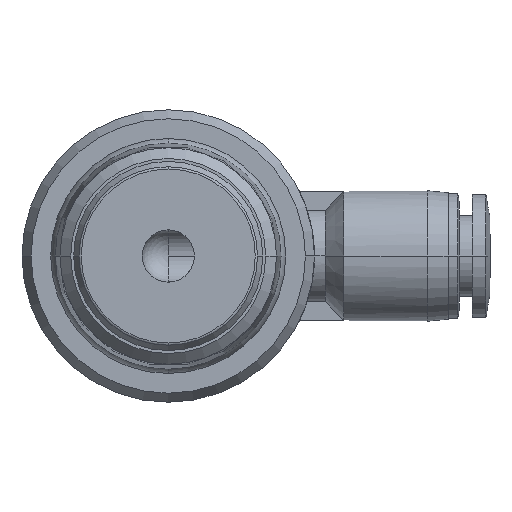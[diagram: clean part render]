
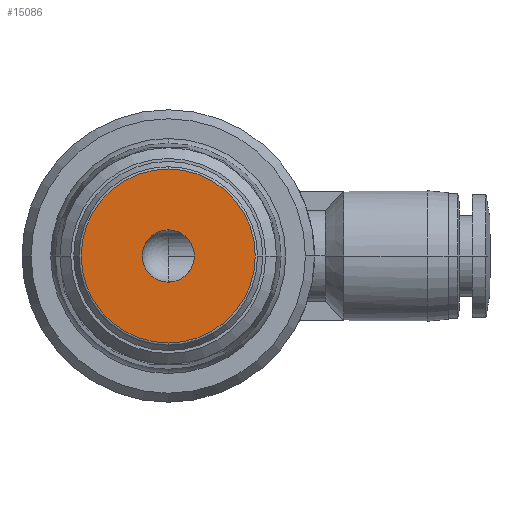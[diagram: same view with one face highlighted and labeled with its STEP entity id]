
A CAD part, front view. The second image highlights one B-rep face of the part: STEP entity #15086.
In plain terms, the highlighted planar face has unit normal (0, -1, 0).
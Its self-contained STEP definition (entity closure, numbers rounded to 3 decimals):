
#187 = CIRCLE ( 'NONE', #1242, 2.5 ) ;
#653 = CARTESIAN_POINT ( 'NONE',  ( -2.5, 0., 0. ) ) ;
#885 = EDGE_CURVE ( 'NONE', #8905, #11816, #187, .T. ) ;
#1037 = CARTESIAN_POINT ( 'NONE',  ( 0., 0., -8.328 ) ) ;
#1161 = DIRECTION ( 'NONE',  ( -1., 0., 0. ) ) ;
#1242 = AXIS2_PLACEMENT_3D ( 'NONE', #7374, #4589, #10085 ) ;
#1444 = CIRCLE ( 'NONE', #11479, 2.5 ) ;
#1623 = ORIENTED_EDGE ( 'NONE', *, *, #10455, .F. ) ;
#2209 = VERTEX_POINT ( 'NONE', #15698 ) ;
#2429 = CARTESIAN_POINT ( 'NONE',  ( 0., 0., 0. ) ) ;
#2755 = FACE_BOUND ( 'NONE', #7776, .T. ) ;
#2800 = VERTEX_POINT ( 'NONE', #1037 ) ;
#2913 = EDGE_LOOP ( 'NONE', ( #1623, #3959 ) ) ;
#3959 = ORIENTED_EDGE ( 'NONE', *, *, #4191, .F. ) ;
#4006 = DIRECTION ( 'NONE',  ( -1., 0., 0. ) ) ;
#4098 = CIRCLE ( 'NONE', #5445, 8.328 ) ;
#4191 = EDGE_CURVE ( 'NONE', #2800, #2209, #4098, .T. ) ;
#4589 = DIRECTION ( 'NONE',  ( 0., 1., 0. ) ) ;
#4826 = CIRCLE ( 'NONE', #15152, 8.328 ) ;
#5445 = AXIS2_PLACEMENT_3D ( 'NONE', #14649, #9513, #4006 ) ;
#6066 = DIRECTION ( 'NONE',  ( -1., 0., 0. ) ) ;
#6903 = CARTESIAN_POINT ( 'NONE',  ( -4.164, 0., 0. ) ) ;
#7374 = CARTESIAN_POINT ( 'NONE',  ( 0., 0., 0. ) ) ;
#7776 = EDGE_LOOP ( 'NONE', ( #8745, #16607 ) ) ;
#8006 = FACE_OUTER_BOUND ( 'NONE', #2913, .T. ) ;
#8587 = EDGE_CURVE ( 'NONE', #11816, #8905, #1444, .T. ) ;
#8745 = ORIENTED_EDGE ( 'NONE', *, *, #8587, .T. ) ;
#8905 = VERTEX_POINT ( 'NONE', #14922 ) ;
#9197 = DIRECTION ( 'NONE',  ( 0., 0., -1. ) ) ;
#9280 = DIRECTION ( 'NONE',  ( 0., -1., 0. ) ) ;
#9513 = DIRECTION ( 'NONE',  ( 0., 1., 0. ) ) ;
#10085 = DIRECTION ( 'NONE',  ( -1., 0., 0. ) ) ;
#10455 = EDGE_CURVE ( 'NONE', #2209, #2800, #4826, .T. ) ;
#10728 = PLANE ( 'NONE',  #16258 ) ;
#11479 = AXIS2_PLACEMENT_3D ( 'NONE', #2429, #11697, #1161 ) ;
#11505 = CARTESIAN_POINT ( 'NONE',  ( 0., 0., 0. ) ) ;
#11697 = DIRECTION ( 'NONE',  ( 0., 1., 0. ) ) ;
#11816 = VERTEX_POINT ( 'NONE', #653 ) ;
#14649 = CARTESIAN_POINT ( 'NONE',  ( 0., 0., 0. ) ) ;
#14922 = CARTESIAN_POINT ( 'NONE',  ( 2.5, 0., 0. ) ) ;
#15086 = ADVANCED_FACE ( 'NONE', ( #8006, #2755 ), #10728, .T. ) ;
#15152 = AXIS2_PLACEMENT_3D ( 'NONE', #11505, #16721, #6066 ) ;
#15698 = CARTESIAN_POINT ( 'NONE',  ( 0., 0., 8.328 ) ) ;
#16258 = AXIS2_PLACEMENT_3D ( 'NONE', #6903, #9280, #9197 ) ;
#16607 = ORIENTED_EDGE ( 'NONE', *, *, #885, .T. ) ;
#16721 = DIRECTION ( 'NONE',  ( 0., 1., 0. ) ) ;
